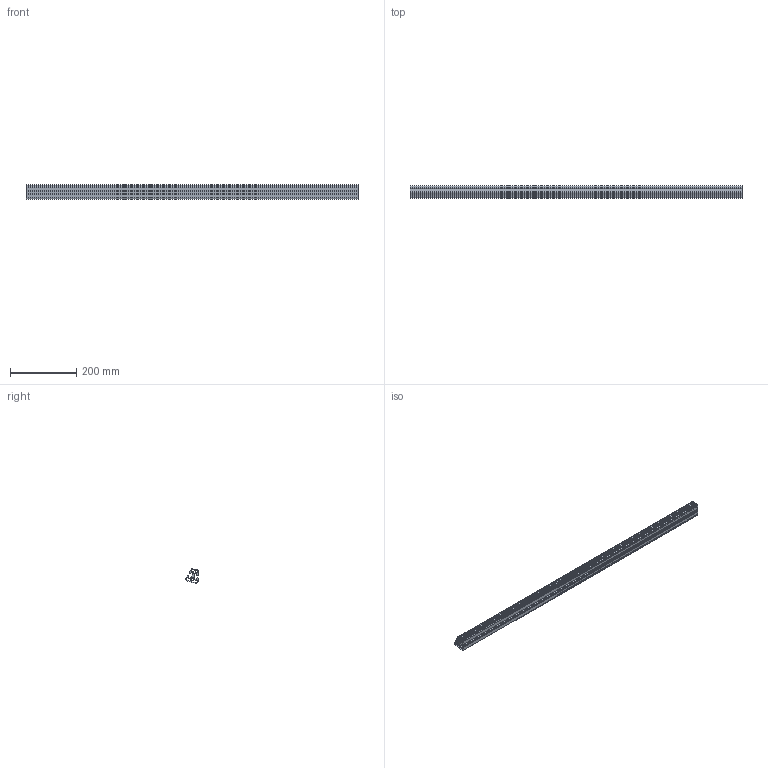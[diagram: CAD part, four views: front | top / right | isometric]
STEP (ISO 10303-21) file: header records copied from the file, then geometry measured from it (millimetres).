
FILE_DESCRIPTION (( 'STEP AP203' ), '1' );
FILE_NAME ('10433_PRO_40x80x30.STEP', '2016-03-02T06:30:10', ( '' ), ( '' ), 'SwSTEP 2.0', 'SolidWorks 2015', '' );
FILE_SCHEMA (( 'CONFIG_CONTROL_DESIGN' ));
Length unit declared in the file: millimetre
Products named in the file (1): 10433_PRO_40x80x30
Bounding box: 1000 x 38.33 x 43.75 mm (x, y, z)
Volume: 492301.8 mm3; surface area: 384752.1 mm2
Topology: 1 solids, 1 shells, 176 faces, 522 edges, 348 vertices
Faces by surface type: plane 175, cylinder 1
Entity records: 5853 total; most frequent: CARTESIAN_POINT 1047, ORIENTED_EDGE 1044, DIRECTION 878, EDGE_CURVE 522, VECTOR 520, LINE 520, VERTEX_POINT 348, EDGE_LOOP 180
